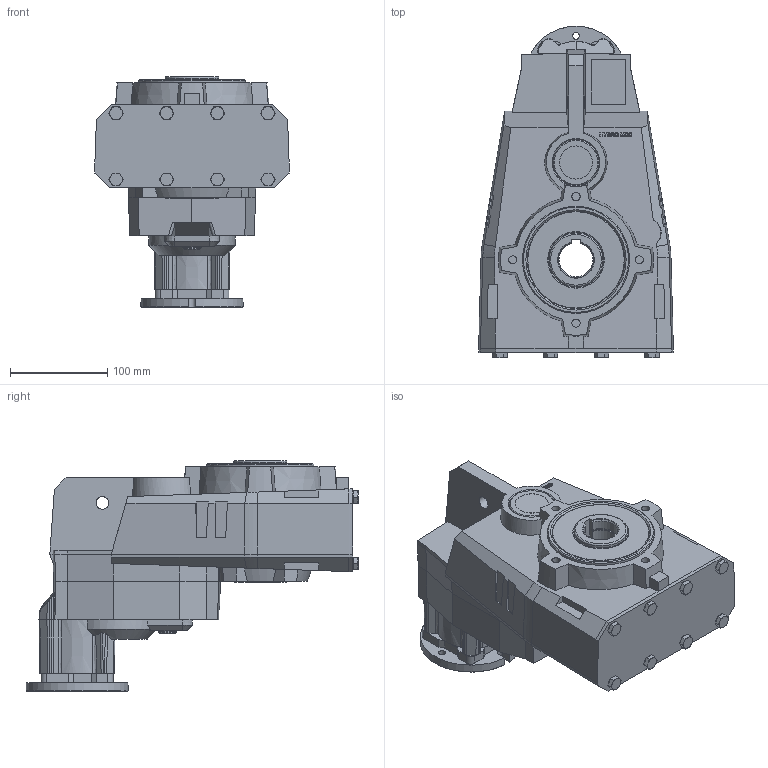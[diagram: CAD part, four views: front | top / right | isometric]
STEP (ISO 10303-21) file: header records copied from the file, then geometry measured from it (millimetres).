
FILE_DESCRIPTION( ( 'Unknown' ), '1' );
FILE_NAME( 'E:/services/configuratordownloads/customers/HYDROMEC/FLACH/download/D3B542B40A2E893B22ECE891528718/STEP/D3B542B40A2E893B22ECE891528718.3d.stp', 'Unknown', ( 'Unknown' ), ( 'Unknown' ), 'PSStep 10.1', 'Unknown', ' ' );
FILE_SCHEMA( ( 'AUTOMOTIVE_DESIGN { 1 0 10303 214 1 1 1 1 }' ) );
Length unit declared in the file: millimetre
Products named in the file (10): F508800_ST
Bounding box: 200 x 340.99 x 237 mm (x, y, z)
Volume: 5538053.2 mm3; surface area: 301035.9 mm2
Topology: 10 solids, 41 shells, 900 faces, 2118 edges, 1359 vertices
Faces by surface type: plane 563, cone 141, cylinder 138, torus 37, bspline 11, extrusion 10
Full cylindrical faces by diameter (mm): 6 x1, 6.647 x40, 7 x3, 8 x8, 8.376 x8, 9 x8, 11.6 x8, 13 x9, 13.5 x1, 18 x1, 19 x1, 21 x1, 34 x1, 35 x1, 47 x2, 55 x2, 70 x1, 110 x1
Entity records: 32732 total; most frequent: CARTESIAN_POINT 6145, DIRECTION 3815, ORIENTED_EDGE 3732, EDGE_CURVE 1866, AXIS2_PLACEMENT_3D 1387, VERTEX_POINT 1295, EDGE_LOOP 1175, VECTOR 1041
